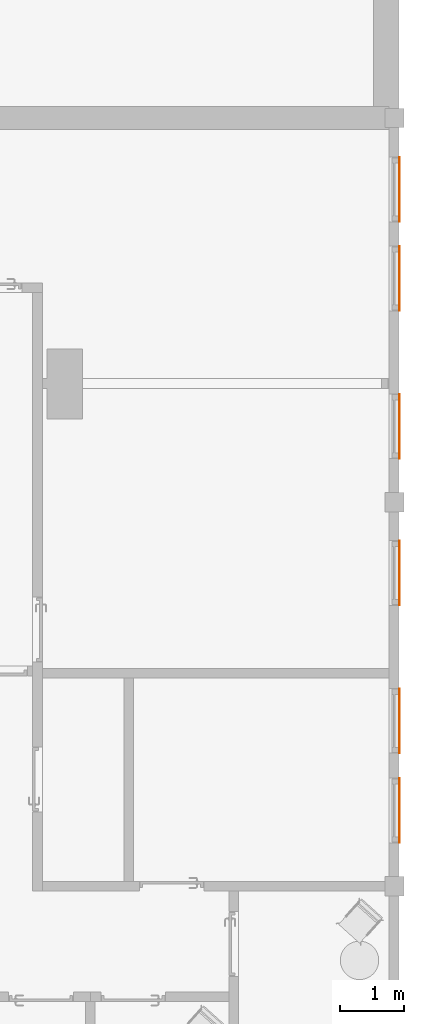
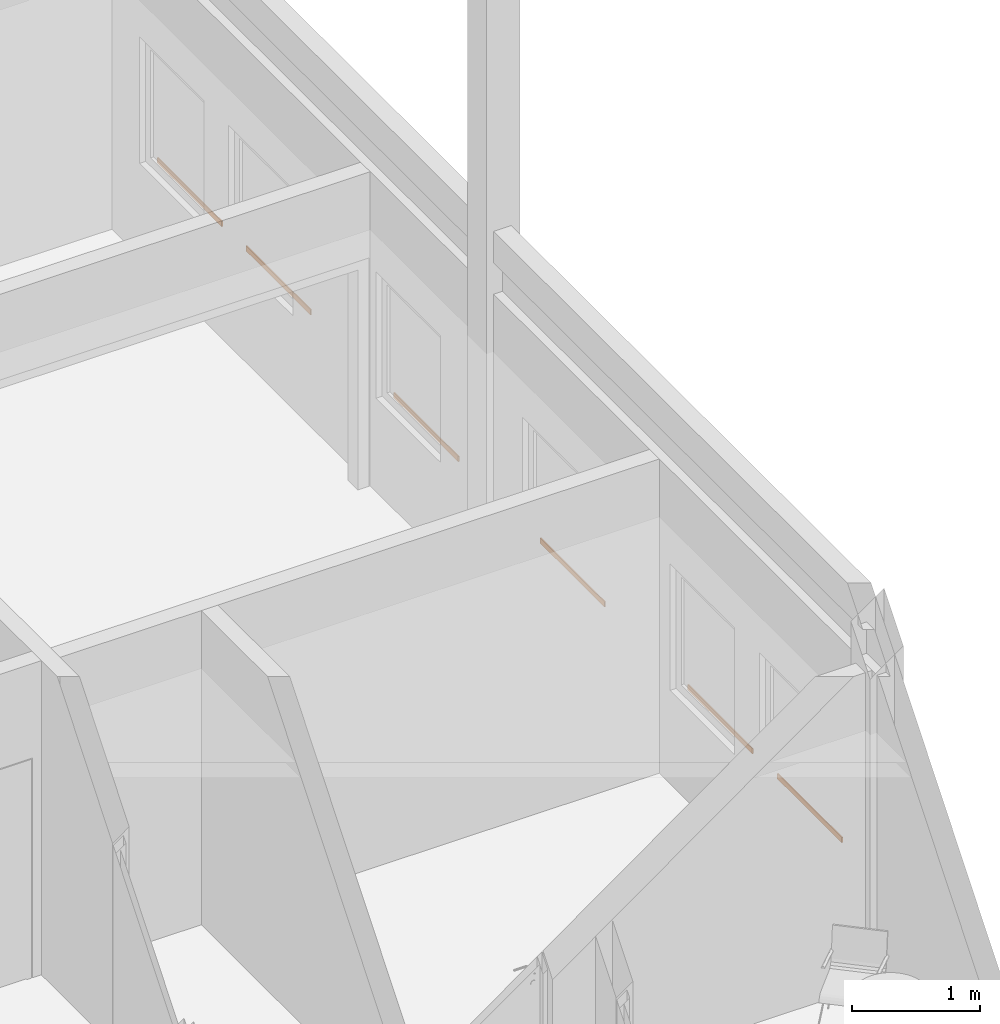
# One storey, part 58 of 58: 6 proxies.
"""IFC2X3 building model written with IfcOpenShell, lengths in millimetres."""

import ifcopenshell
import ifcopenshell.guid

model = None  # the IFC model being written
_history = None  # IfcOwnerHistory: only IFC2X3 demands one
_inside = {}  # id of a spatial element -> (the spatial element, [elements in it])
_under = {}  # id of a project, library or spatial element -> (it, [spatial elements below it])
_declared = {}  # id of a project -> (the project, [libraries it declares])
_typed = {}  # id of a type object -> (the type object, [elements of that type])
_made_of = {}  # id of a material, layer set ... -> (it, [elements and type objects made of it])


def new_model(schema):
    """Start an empty IFC model of exactly this schema.

    Asked for "IFC4X3", IfcOpenShell would pick the latest addendum, in which some entities
    have other attributes; the version numbers below select the first issue.
    IFC2X3 requires an IfcOwnerHistory on every rooted entity: one is made here for all.
    """
    global model, _history
    if schema == "IFC4X3":
        model = ifcopenshell.file(schema_version=(4, 3, 0, 0))
    else:
        model = ifcopenshell.file(schema=schema)
    _inside.clear()
    _under.clear()
    _declared.clear()
    _typed.clear()
    _made_of.clear()
    _history = None
    if model.schema == "IFC2X3":
        org = make("IfcOrganization", Name="unknown")
        user = make(
            "IfcPersonAndOrganization",
            ThePerson=make("IfcPerson", FamilyName="unknown"),
            TheOrganization=org,
        )
        app = make(
            "IfcApplication",
            ApplicationDeveloper=org,
            Version="unknown",
            ApplicationFullName="unknown",
            ApplicationIdentifier="unknown",
        )
        _history = make(
            "IfcOwnerHistory",
            OwningUser=user,
            OwningApplication=app,
            ChangeAction="ADDED",
            CreationDate=0,
        )
    return model


def make(cls, **values):
    """One entity of the class cls with the attributes given. An attribute that is None is left unset."""
    return model.create_entity(
        cls, **{name: value for name, value in values.items() if value is not None}
    )


def entity(cls, *values):
    """Any entity or typed value of the class cls, its attributes in the order of the schema. None: left unset."""
    e = model.create_entity(cls)
    for i, value in enumerate(values):
        if value is not None:
            e[i] = value
    return e


def rooted(cls, **values):
    """An entity with a GlobalId (a new one), such as an element, a storey or a relation."""
    return make(cls, GlobalId=ifcopenshell.guid.new(), OwnerHistory=_history, **values)


def si_unit(unit_type, name, prefix=None):
    """IfcSIUnit, for example si_unit("LENGTHUNIT", "METRE", prefix="MILLI")."""
    return make("IfcSIUnit", UnitType=unit_type, Prefix=prefix, Name=name)


def converted_unit(unit_type, name, factor, base, dimensions=None, offset=None):
    """IfcConversionBasedUnit, such as the inch: factor (a typed value) times the base unit."""
    return make(
        "IfcConversionBasedUnit"
        if offset is None
        else "IfcConversionBasedUnitWithOffset",
        ConversionOffset=offset,
        Dimensions=None
        if dimensions is None
        else entity("IfcDimensionalExponents", *dimensions),
        UnitType=unit_type,
        Name=name,
        ConversionFactor=make(
            "IfcMeasureWithUnit", ValueComponent=factor, UnitComponent=base
        ),
    )


def derived_unit(unit_type, elements):
    """IfcDerivedUnit: a product of units, each with its exponent."""
    return make(
        "IfcDerivedUnit",
        Elements=[
            make("IfcDerivedUnitElement", Unit=unit, Exponent=power)
            for unit, power in elements
        ],
        UnitType=unit_type,
    )


def assignment(units):
    """IfcUnitAssignment: the units of a project."""
    return None if units is None else make("IfcUnitAssignment", Units=units)


def point(xyz):
    """IfcCartesianPoint."""
    return None if xyz is None else make("IfcCartesianPoint", Coordinates=xyz)


def direction(xyz):
    """IfcDirection."""
    return None if xyz is None else make("IfcDirection", DirectionRatios=xyz)


def frame(location, z_axis=None, x_axis=None):
    """IfcAxis2Placement3D, a coordinate frame: its origin and axes. An axis left out is left unset."""
    return make(
        "IfcAxis2Placement3D",
        Location=point(location),
        Axis=direction(z_axis),
        RefDirection=direction(x_axis),
    )


def frame_2d(location, x_axis=None):
    """IfcAxis2Placement2D, a coordinate frame in the plane: its origin and x axis."""
    return make(
        "IfcAxis2Placement2D", Location=point(location), RefDirection=direction(x_axis)
    )


def origin():
    """The frame at (0, 0, 0) with its axes left unset."""
    return frame((0.0, 0.0, 0.0))


def origin_2d_with_axis():
    """The frame at (0, 0) in the plane with the x axis (1, 0) written out."""
    return frame_2d((0.0, 0.0), x_axis=(1.0, 0.0))


def place(relative_to, where):
    """IfcLocalPlacement: puts the frame where relative to a parent placement (None: the world)."""
    return make(
        "IfcLocalPlacement", PlacementRelTo=relative_to, RelativePlacement=where
    )


def context(
    kind, dimensions, precision=None, world=None, true_north=None, identifier=None
):
    """IfcGeometricRepresentationContext, for example the 3D "Model" context."""
    return make(
        "IfcGeometricRepresentationContext",
        ContextIdentifier=identifier,
        ContextType=kind,
        CoordinateSpaceDimension=dimensions,
        Precision=precision,
        WorldCoordinateSystem=world,
        TrueNorth=true_north,
    )


def subcontext(parent, identifier, kind, view, scale=None):
    """IfcGeometricRepresentationSubContext, for example "Body" below "Model"."""
    return make(
        "IfcGeometricRepresentationSubContext",
        ContextIdentifier=identifier,
        ContextType=kind,
        ParentContext=parent,
        TargetScale=scale,
        TargetView=view,
    )


def project(units=None, contexts=None):
    """IfcProject with its units and contexts."""
    return rooted(
        "IfcProject",
        Name="project",
        RepresentationContexts=contexts,
        UnitsInContext=assignment(units),
    )


def spatial(cls, under=None, at=None, **own):
    """A site, building, storey or space (cls), placed at a placement, below another one or the project."""
    s = rooted(cls, ObjectPlacement=at, **own)
    if under is not None:
        _under.setdefault(under.id(), (under, []))[1].append(s)
    return s


def profile(cls, at=None, kind="AREA", **sizes):
    """A parametric profile (cls). Its sizes go by their IFC names, for example OverallWidth=200.0."""
    return make(cls, ProfileType=kind, Position=at, **sizes)


def rectangle(**sizes):
    """IfcRectangleProfileDef."""
    return profile("IfcRectangleProfileDef", **sizes)


def extrude(swept, where, along, depth):
    """IfcExtrudedAreaSolid: the profile swept, set in the frame where, extruded along a direction by depth."""
    return make(
        "IfcExtrudedAreaSolid",
        SweptArea=swept,
        Position=where,
        ExtrudedDirection=direction(along),
        Depth=depth,
    )


def shape(context_of_items, identifier, shape_type, items):
    """IfcShapeRepresentation: the items that make up one representation, for example the "Body"."""
    return make(
        "IfcShapeRepresentation",
        ContextOfItems=context_of_items,
        RepresentationIdentifier=identifier,
        RepresentationType=shape_type,
        Items=items,
    )


def source(mapping_origin, context_of_items, identifier, shape_type, items):
    """IfcRepresentationMap: a shape defined once, which mapped items show again and again."""
    return make(
        "IfcRepresentationMap",
        MappingOrigin=mapping_origin,
        MappedRepresentation=shape(context_of_items, identifier, shape_type, items),
    )


def transform(
    local_origin,
    x_axis=None,
    y_axis=None,
    z_axis=None,
    scale=None,
    scale2=None,
    scale3=None,
    uniform=True,
):
    """IfcCartesianTransformationOperator3D, or its non-uniform kind. x_axis, y_axis, z_axis: its Axis1, 2, 3."""
    if uniform:
        return make(
            "IfcCartesianTransformationOperator3D",
            Axis1=direction(x_axis),
            Axis2=direction(y_axis),
            LocalOrigin=point(local_origin),
            Scale=scale,
            Axis3=direction(z_axis),
        )
    return make(
        "IfcCartesianTransformationOperator3DnonUniform",
        Axis1=direction(x_axis),
        Axis2=direction(y_axis),
        LocalOrigin=point(local_origin),
        Scale=scale,
        Axis3=direction(z_axis),
        Scale2=scale2,
        Scale3=scale3,
    )


def mapped(mapping_source, mapping_target):
    """IfcMappedItem: shows the shape of a source again, moved by a transform."""
    return make(
        "IfcMappedItem", MappingSource=mapping_source, MappingTarget=mapping_target
    )


def material(Name=None, Category=None):
    """IfcMaterial."""
    return make("IfcMaterial", Name=Name, Category=Category)


def made_of(thing, what):
    """Note that an element or type object is made of a material, layer set ...; save() writes the relation."""
    if what is not None:
        _made_of.setdefault(what.id(), (what, []))[1].append(thing)
    return thing


def type_object(cls, material=None, **own):
    """A type object (cls), such as IfcWallType, which elements share."""
    return made_of(rooted(cls, **own), material)


def type_shapes(of_type, sources):
    """Give a type object the sources (RepresentationMaps) that its elements show as mapped items."""
    of_type.RepresentationMaps = sources


def element(
    cls,
    number,
    at=None,
    inside=None,
    cuts=None,
    type_object=None,
    material=None,
    context=None,
    identifier="Body",
    shape_type=None,
    held_by="IfcProductDefinitionShape",
    body=None,
    shapes=None,
    **own,
):
    """One element of the class cls, such as IfcWall. Its Tag is "e" and its number.

    at: its placement. inside: the storey or other place that contains it. cuts: it is an
    opening in that element (IfcRelVoidsElement). A single representation is given by context,
    identifier, shape_type and body (its items); several are given by shapes. held_by: the class
    of the entity that holds the representations. save() writes the other relations.
    """
    e = rooted(cls, Tag="e%d" % number, ObjectPlacement=at, **own)
    if body is not None:
        shapes = [shape(context, identifier, shape_type, body)]
    if shapes is not None:
        e.Representation = make(held_by, Representations=shapes)
    if inside is not None:
        _inside.setdefault(inside.id(), (inside, []))[1].append(e)
    if cuts is not None:
        rooted(
            "IfcRelVoidsElement", RelatingBuildingElement=cuts, RelatedOpeningElement=e
        )
    if type_object is not None:
        _typed.setdefault(type_object.id(), (type_object, []))[1].append(e)
    return made_of(e, material)


def aggregate(whole, parts):
    """IfcRelAggregates: a whole, such as a stair, and the parts it consists of."""
    return rooted("IfcRelAggregates", RelatingObject=whole, RelatedObjects=parts)


def save(model, path):
    """Write the relations noted so far, then the file.

    IfcRelAggregates (storeys below a building ...), IfcRelContainedInSpatialStructure (elements
    in a storey), IfcRelDefinesByType, IfcRelAssociatesMaterial and IfcRelDeclares: one each for
    every whole, place, type object, material and project.
    """
    for whole, parts in _under.values():
        aggregate(whole, parts)
    for where, things in _inside.values():
        rooted(
            "IfcRelContainedInSpatialStructure",
            RelatedElements=things,
            RelatingStructure=where,
        )
    for kind, things in _typed.values():
        rooted("IfcRelDefinesByType", RelatedObjects=things, RelatingType=kind)
    for what, things in _made_of.values():
        rooted("IfcRelAssociatesMaterial", RelatedObjects=things, RelatingMaterial=what)
    for by, libraries in _declared.values():
        rooted("IfcRelDeclares", RelatingContext=by, RelatedDefinitions=libraries)
    model.write(path)


model = new_model("IFC2X3")

# Units and contexts
model_context = context("Model", 3, precision=0.01, world=origin(), true_north=direction((0.7716245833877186, 0.6360782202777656)))
body_context = subcontext(model_context, "Body", "Model", "MODEL_VIEW")
ifc_project = project(units=[si_unit("LENGTHUNIT", "METRE", prefix="MILLI"), si_unit("AREAUNIT", "SQUARE_METRE"), converted_unit("PLANEANGLEUNIT", "DEGREE", entity("IfcPlaneAngleMeasure", 0.017453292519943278), si_unit("PLANEANGLEUNIT", "RADIAN"), dimensions=[0, 0, 0, 0, 0, 0, 0]), derived_unit("THERMALTRANSMITTANCEUNIT", [(si_unit("MASSUNIT", "GRAM", prefix="KILO"), 1), (si_unit("THERMODYNAMICTEMPERATUREUNIT", "KELVIN"), -1), (si_unit("TIMEUNIT", "SECOND"), -3)])], contexts=[model_context])

# Site, building, storey
site_placement = place(None, origin())
site = spatial("IfcSite", under=ifc_project, at=site_placement, Name="Default", CompositionType="ELEMENT")
building_placement = place(site_placement, origin())
building = spatial("IfcBuilding", under=site, at=building_placement, CompositionType="ELEMENT")
storey_placement = place(building_placement, frame((0.0, 0.0, 31140.0)))
storey = spatial("IfcBuildingStorey", under=building, at=storey_placement, Name="PLAN U1", CompositionType="ELEMENT", Elevation=31140.000000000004)

# Proxies
ifc_material = material(Name="Aluminum")
building_element_proxy_type = type_object("IfcBuildingElementProxyType", Name="Fasade profil, HOR:Fasade profil 100x50", PredefinedType="NOTDEFINED", material=ifc_material)
shared_shape = source(origin(), body_context, "Body", "SweptSolid", [
    extrude(rectangle(XDim=1009.9999999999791, YDim=9.999999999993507, at=origin_2d_with_axis()), frame((505.0, -5.0, 0.0), z_axis=(0.0, 0.0, 1.0), x_axis=(-1.0, 0.0, 0.0)), (0.0, 0.0, 1.0), 50.00000000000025),
])
type_shapes(building_element_proxy_type, [shared_shape])
for number, where, z_axis, x_axis, name in (
    (1, (277990.257347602, 69694.50163955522, 840.0), (0.0, 0.0, 1.0), (0.0, 1.0, 0.0), "Fasade profil, HOR:Fasade profil 100x50"),
    (2, (277990.257347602, 68304.50163955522, 840.0), (0.0, 0.0, 1.0), (0.0, 1.0, 0.0), "Fasade profil, HOR:Fasade profil 100x50"),
    (3, (277990.257347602, 65994.50163955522, 840.0), (0.0, 0.0, 1.0), (0.0, 1.0, 0.0), "Fasade profil, HOR:Fasade profil 100x50"),
    (4, (277990.257347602, 63704.50163955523, 840.0), (0.0, 0.0, 1.0), (0.0, 1.0, 0.0), "Fasade profil, HOR:Fasade profil 100x50"),
    (5, (277990.257347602, 61394.50163955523, 840.0), (0.0, 0.0, 1.0), (0.0, 1.0, 0.0), "Fasade profil, HOR:Fasade profil 100x50"),
    (6, (277990.257347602, 59994.50163955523, 840.0), (0.0, 0.0, 1.0), (0.0, 1.0, 0.0), "Fasade profil, HOR:Fasade profil 100x50"),
):
    element("IfcBuildingElementProxy", number, at=place(storey_placement, frame(where, z_axis=z_axis, x_axis=x_axis)), inside=storey, type_object=building_element_proxy_type, material=ifc_material, Name=name, ObjectType="Fasade profil, HOR:Fasade profil 100x50", context=body_context, shape_type="MappedRepresentation", body=[
        mapped(shared_shape, transform((0.0, 0.0, 0.0), scale=1.0)),
    ])

save(model, "model.ifc")
